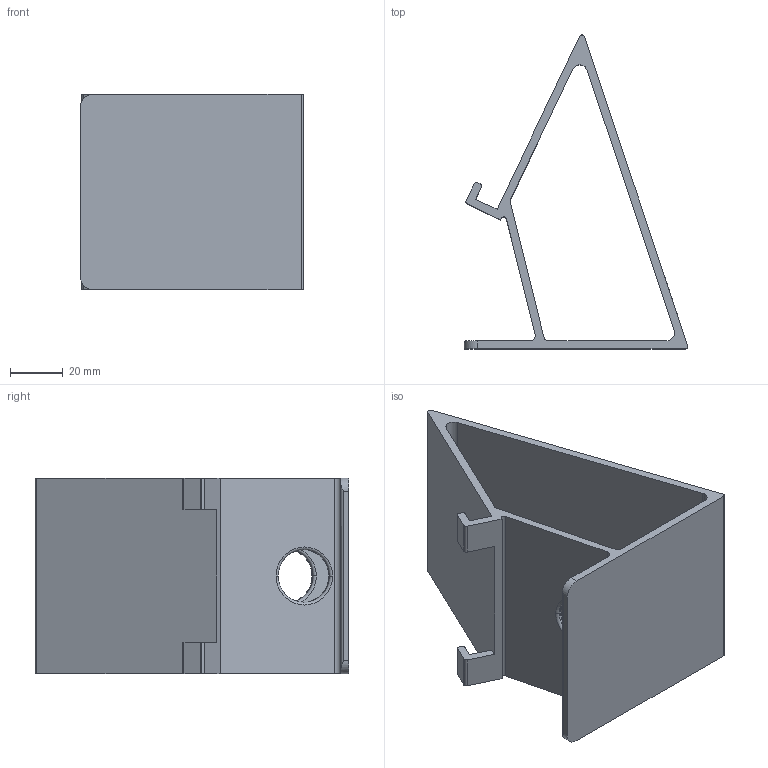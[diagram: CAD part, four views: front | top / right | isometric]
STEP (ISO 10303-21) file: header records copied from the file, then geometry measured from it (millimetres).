
FILE_DESCRIPTION (( 'STEP AP203' ), '1' );
FILE_NAME ('Moto G Stylus 2023 Phone Stand.STEP', '2025-03-19T13:43:51', ( '' ), ( '' ), 'SwSTEP 2.0', 'SolidWorks 2024', '' );
FILE_SCHEMA (( 'CONFIG_CONTROL_DESIGN' ));
Length unit declared in the file: millimetre
Products named in the file (1): Moto G Stylus 2023 Phone Stand
Bounding box: 84.61 x 118.77 x 74 mm (x, y, z)
Volume: 73863.5 mm3; surface area: 49451.3 mm2
Topology: 1 solids, 1 shells, 59 faces, 163 edges, 106 vertices
Faces by surface type: cylinder 27, plane 24, torus 8
Entity records: 2000 total; most frequent: DIRECTION 349, CARTESIAN_POINT 343, ORIENTED_EDGE 326, EDGE_CURVE 163, AXIS2_PLACEMENT_3D 128, VERTEX_POINT 106, LINE 93, VECTOR 93
